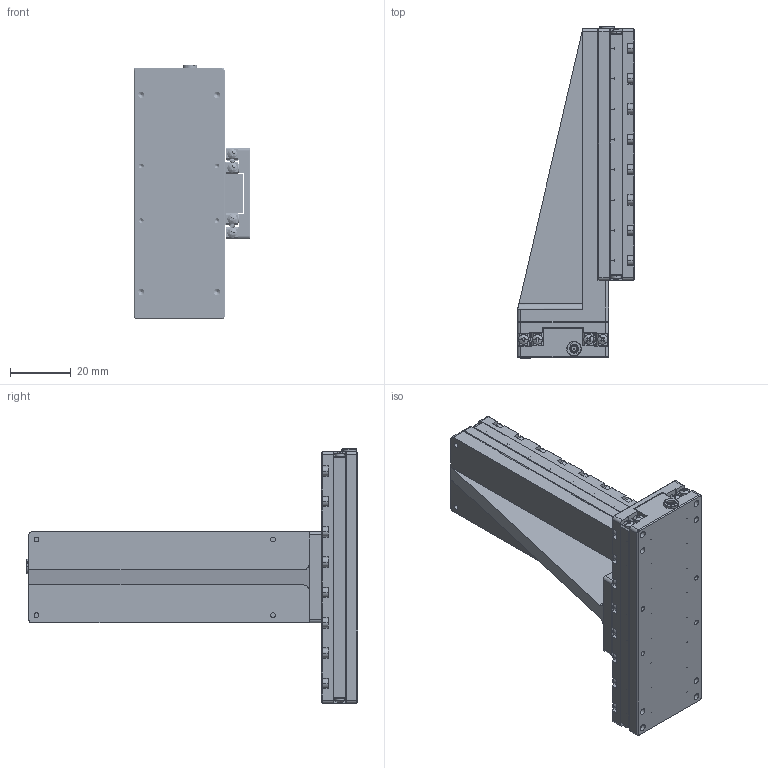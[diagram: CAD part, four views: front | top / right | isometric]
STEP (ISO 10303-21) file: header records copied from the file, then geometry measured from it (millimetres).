
FILE_DESCRIPTION (( 'STEP AP214' ), '1' );
FILE_NAME ('N56.XZ50K-B1开环二维直线压电马达3D图（25.08.01）.STEP', '2025-08-04T05:21:02', ( '微软用户' ), ( '微软中国' ), 'SwSTEP 2.0', 'SolidWorks 2016', '' );
FILE_SCHEMA (( 'AUTOMOTIVE_DESIGN' ));
Length unit declared in the file: millimetre
Products named in the file (1): N56.XZ50K-B1开环二维直线压电马达3D图（25.08.01）
Bounding box: 38.5 x 109.4 x 83.9 mm (x, y, z)
Volume: 64185.9 mm3; surface area: 60602.7 mm2
Topology: 183 solids, 183 shells, 4071 faces, 10007 edges, 6370 vertices
Faces by surface type: plane 2061, cylinder 1488, cone 362, bspline 160
Entity records: 167962 total; most frequent: CARTESIAN_POINT 24269, DIRECTION 20697, ORIENTED_EDGE 19478, EDGE_CURVE 9739, AXIS2_PLACEMENT_3D 7558, VERTEX_POINT 6370, LINE 5581, VECTOR 5581
